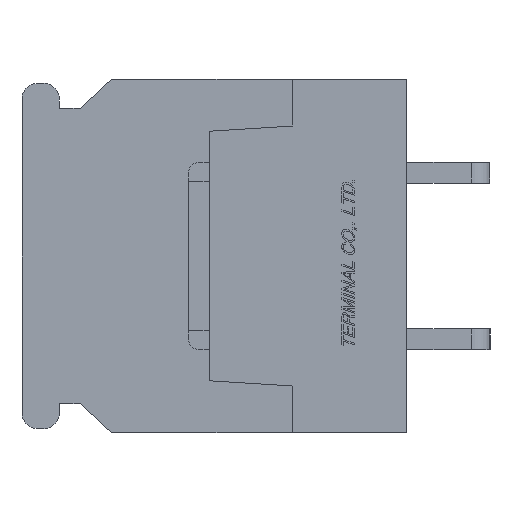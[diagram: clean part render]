
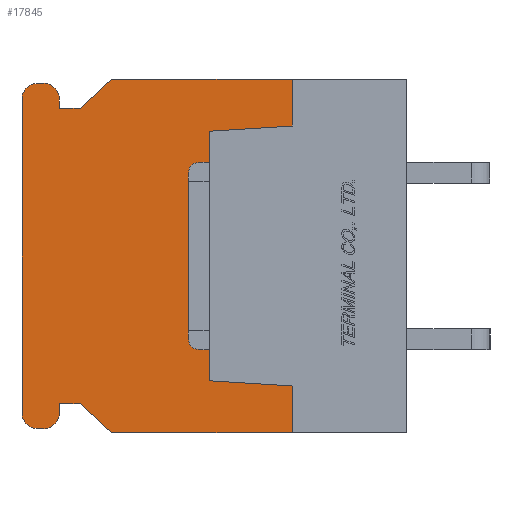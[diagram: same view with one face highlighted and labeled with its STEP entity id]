
A CAD part, left-side view. The second image highlights one B-rep face of the part: STEP entity #17845.
In plain terms, the highlighted planar face has unit normal (-1, 0, 0).
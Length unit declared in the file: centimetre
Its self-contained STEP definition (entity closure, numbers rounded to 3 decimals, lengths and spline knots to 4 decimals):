
#1051=CIRCLE('',#30666,0.075);
#1052=CIRCLE('',#30667,0.075);
#1053=CIRCLE('',#30668,0.075);
#1054=CIRCLE('',#30669,0.075);
#1919=VERTEX_POINT('',#25709);
#1920=VERTEX_POINT('',#25711);
#1968=VERTEX_POINT('',#25837);
#1969=VERTEX_POINT('',#25839);
#2143=VERTEX_POINT('',#26434);
#2144=VERTEX_POINT('',#26436);
#2145=VERTEX_POINT('',#26438);
#2146=VERTEX_POINT('',#26440);
#2147=VERTEX_POINT('',#26442);
#2148=VERTEX_POINT('',#26444);
#2149=VERTEX_POINT('',#26446);
#2150=VERTEX_POINT('',#26448);
#2151=VERTEX_POINT('',#26450);
#2152=VERTEX_POINT('',#26452);
#2153=VERTEX_POINT('',#26454);
#2154=VERTEX_POINT('',#26456);
#2155=VERTEX_POINT('',#26458);
#2156=VERTEX_POINT('',#26461);
#2157=VERTEX_POINT('',#26463);
#2158=VERTEX_POINT('',#26465);
#3664=VECTOR('',#21095,1.);
#3725=VECTOR('',#21182,1.);
#3978=VECTOR('',#21675,1.);
#3979=VECTOR('',#21676,1.);
#3980=VECTOR('',#21677,1.);
#3981=VECTOR('',#21678,1.);
#3982=VECTOR('',#21681,1.);
#3983=VECTOR('',#21684,1.);
#3984=VECTOR('',#21687,1.);
#3985=VECTOR('',#21690,1.);
#3986=VECTOR('',#21691,1.);
#3987=VECTOR('',#21692,1.);
#3988=VECTOR('',#21693,1.);
#3989=VECTOR('',#21694,1.);
#3990=VECTOR('',#21695,1.);
#3991=VECTOR('',#21696,1.);
#5660=LINE('',#25710,#3664);
#5721=LINE('',#25838,#3725);
#5974=LINE('',#26433,#3978);
#5975=LINE('',#26435,#3979);
#5976=LINE('',#26437,#3980);
#5977=LINE('',#26439,#3981);
#5978=LINE('',#26443,#3982);
#5979=LINE('',#26447,#3983);
#5980=LINE('',#26451,#3984);
#5981=LINE('',#26455,#3985);
#5982=LINE('',#26457,#3986);
#5983=LINE('',#26459,#3987);
#5984=LINE('',#26460,#3988);
#5985=LINE('',#26462,#3989);
#5986=LINE('',#26464,#3990);
#5987=LINE('',#26466,#3991);
#8082=EDGE_CURVE('',#1919,#1920,#5660,.T.);
#8147=EDGE_CURVE('',#1968,#1969,#5721,.T.);
#8448=EDGE_CURVE('',#2143,#1969,#5974,.T.);
#8449=EDGE_CURVE('',#2144,#1968,#5975,.T.);
#8450=EDGE_CURVE('',#2145,#2144,#5976,.T.);
#8451=EDGE_CURVE('',#2146,#2145,#5977,.T.);
#8452=EDGE_CURVE('',#2147,#2146,#1051,.T.);
#8453=EDGE_CURVE('',#2148,#2147,#5978,.T.);
#8454=EDGE_CURVE('',#2149,#2148,#1052,.T.);
#8455=EDGE_CURVE('',#2150,#2149,#5979,.T.);
#8456=EDGE_CURVE('',#2151,#2150,#1053,.T.);
#8457=EDGE_CURVE('',#2152,#2151,#5980,.T.);
#8458=EDGE_CURVE('',#2153,#2152,#1054,.T.);
#8459=EDGE_CURVE('',#2154,#2153,#5981,.T.);
#8460=EDGE_CURVE('',#2155,#2154,#5982,.T.);
#8461=EDGE_CURVE('',#1920,#2155,#5983,.T.);
#8462=EDGE_CURVE('',#1919,#2156,#5984,.T.);
#8463=EDGE_CURVE('',#2156,#2157,#5985,.T.);
#8464=EDGE_CURVE('',#2157,#2158,#5986,.T.);
#8465=EDGE_CURVE('',#2158,#2143,#5987,.T.);
#12638=ORIENTED_EDGE('',*,*,#8448,.T.);
#12639=ORIENTED_EDGE('',*,*,#8147,.F.);
#12640=ORIENTED_EDGE('',*,*,#8449,.F.);
#12641=ORIENTED_EDGE('',*,*,#8450,.F.);
#12642=ORIENTED_EDGE('',*,*,#8451,.F.);
#12643=ORIENTED_EDGE('',*,*,#8452,.F.);
#12644=ORIENTED_EDGE('',*,*,#8453,.F.);
#12645=ORIENTED_EDGE('',*,*,#8454,.F.);
#12646=ORIENTED_EDGE('',*,*,#8455,.F.);
#12647=ORIENTED_EDGE('',*,*,#8456,.F.);
#12648=ORIENTED_EDGE('',*,*,#8457,.F.);
#12649=ORIENTED_EDGE('',*,*,#8458,.F.);
#12650=ORIENTED_EDGE('',*,*,#8459,.F.);
#12651=ORIENTED_EDGE('',*,*,#8460,.F.);
#12652=ORIENTED_EDGE('',*,*,#8461,.F.);
#12653=ORIENTED_EDGE('',*,*,#8082,.F.);
#12654=ORIENTED_EDGE('',*,*,#8462,.T.);
#12655=ORIENTED_EDGE('',*,*,#8463,.T.);
#12656=ORIENTED_EDGE('',*,*,#8464,.T.);
#12657=ORIENTED_EDGE('',*,*,#8465,.T.);
#15651=EDGE_LOOP('',(#12638,#12639,#12640,#12641,#12642,#12643,#12644,#12645,
#12646,#12647,#12648,#12649,#12650,#12651,#12652,#12653,#12654,#12655,#12656,
#12657));
#16791=FACE_BOUND('',#15651,.T.);
#17845=ADVANCED_FACE('',(#16791),#18710,.F.);
#18710=PLANE('',#30665);
#21095=DIRECTION('',(0.,1.,0.));
#21182=DIRECTION('',(0.,-1.,0.));
#21674=DIRECTION('',(1.,0.,0.));
#21675=DIRECTION('',(0.,0.,1.));
#21676=DIRECTION('',(0.,-0.731,0.682));
#21677=DIRECTION('',(0.,-1.,0.));
#21678=DIRECTION('',(0.,0.,-1.));
#21679=DIRECTION('',(1.,0.,0.));
#21680=DIRECTION('',(0.,0.,-0.075));
#21681=DIRECTION('',(0.,-1.,0.));
#21682=DIRECTION('',(1.,0.,0.));
#21683=DIRECTION('',(0.,0.,-0.075));
#21684=DIRECTION('',(0.,0.,1.));
#21685=DIRECTION('',(1.,0.,0.));
#21686=DIRECTION('',(0.,0.,-0.075));
#21687=DIRECTION('',(0.,1.,0.));
#21688=DIRECTION('',(1.,0.,0.));
#21689=DIRECTION('',(0.,0.,-0.075));
#21690=DIRECTION('',(0.,0.,-1.));
#21691=DIRECTION('',(0.,1.,0.));
#21692=DIRECTION('',(0.,0.731,0.682));
#21693=DIRECTION('',(0.,0.,1.));
#21694=DIRECTION('',(0.,0.998,0.062));
#21695=DIRECTION('',(0.,0.,1.));
#21696=DIRECTION('',(0.,-0.998,0.062));
#25709=CARTESIAN_POINT('',(-1.,0.55,-0.85));
#25710=CARTESIAN_POINT('',(-1.,0.,-0.85));
#25711=CARTESIAN_POINT('',(-1.,1.42,-0.85));
#25837=CARTESIAN_POINT('',(-1.,1.42,0.85));
#25838=CARTESIAN_POINT('',(-1.,1.42,0.85));
#25839=CARTESIAN_POINT('',(-1.,0.55,0.85));
#26432=CARTESIAN_POINT('',(-1.,0.9383,0.));
#26433=CARTESIAN_POINT('',(-1.,0.55,0.3687));
#26434=CARTESIAN_POINT('',(-1.,0.55,0.625));
#26435=CARTESIAN_POINT('',(-1.,1.57,0.71));
#26436=CARTESIAN_POINT('',(-1.,1.57,0.71));
#26437=CARTESIAN_POINT('',(-1.,1.67,0.71));
#26438=CARTESIAN_POINT('',(-1.,1.67,0.71));
#26439=CARTESIAN_POINT('',(-1.,1.67,0.755));
#26440=CARTESIAN_POINT('',(-1.,1.67,0.755));
#26441=CARTESIAN_POINT('',(-1.,1.745,0.755));
#26442=CARTESIAN_POINT('',(-1.,1.745,0.83));
#26443=CARTESIAN_POINT('',(-1.,1.775,0.83));
#26444=CARTESIAN_POINT('',(-1.,1.775,0.83));
#26445=CARTESIAN_POINT('',(-1.,1.775,0.755));
#26446=CARTESIAN_POINT('',(-1.,1.85,0.755));
#26447=CARTESIAN_POINT('',(-1.,1.85,-0.755));
#26448=CARTESIAN_POINT('',(-1.,1.85,-0.755));
#26449=CARTESIAN_POINT('',(-1.,1.775,-0.755));
#26450=CARTESIAN_POINT('',(-1.,1.775,-0.83));
#26451=CARTESIAN_POINT('',(-1.,1.745,-0.83));
#26452=CARTESIAN_POINT('',(-1.,1.745,-0.83));
#26453=CARTESIAN_POINT('',(-1.,1.745,-0.755));
#26454=CARTESIAN_POINT('',(-1.,1.67,-0.755));
#26455=CARTESIAN_POINT('',(-1.,1.67,-0.71));
#26456=CARTESIAN_POINT('',(-1.,1.67,-0.71));
#26457=CARTESIAN_POINT('',(-1.,1.57,-0.71));
#26458=CARTESIAN_POINT('',(-1.,1.57,-0.71));
#26459=CARTESIAN_POINT('',(-1.,1.42,-0.85));
#26460=CARTESIAN_POINT('',(-1.,0.55,-0.3688));
#26461=CARTESIAN_POINT('',(-1.,0.55,-0.625));
#26462=CARTESIAN_POINT('',(-1.,0.8629,-0.6054));
#26463=CARTESIAN_POINT('',(-1.,0.95,-0.6));
#26464=CARTESIAN_POINT('',(-1.,0.95,0.));
#26465=CARTESIAN_POINT('',(-1.,0.95,0.6));
#26466=CARTESIAN_POINT('',(-1.,0.8629,0.6054));
#30665=AXIS2_PLACEMENT_3D('',#26432,#21674,$);
#30666=AXIS2_PLACEMENT_3D('',#26441,#21679,#21680);
#30667=AXIS2_PLACEMENT_3D('',#26445,#21682,#21683);
#30668=AXIS2_PLACEMENT_3D('',#26449,#21685,#21686);
#30669=AXIS2_PLACEMENT_3D('',#26453,#21688,#21689);
